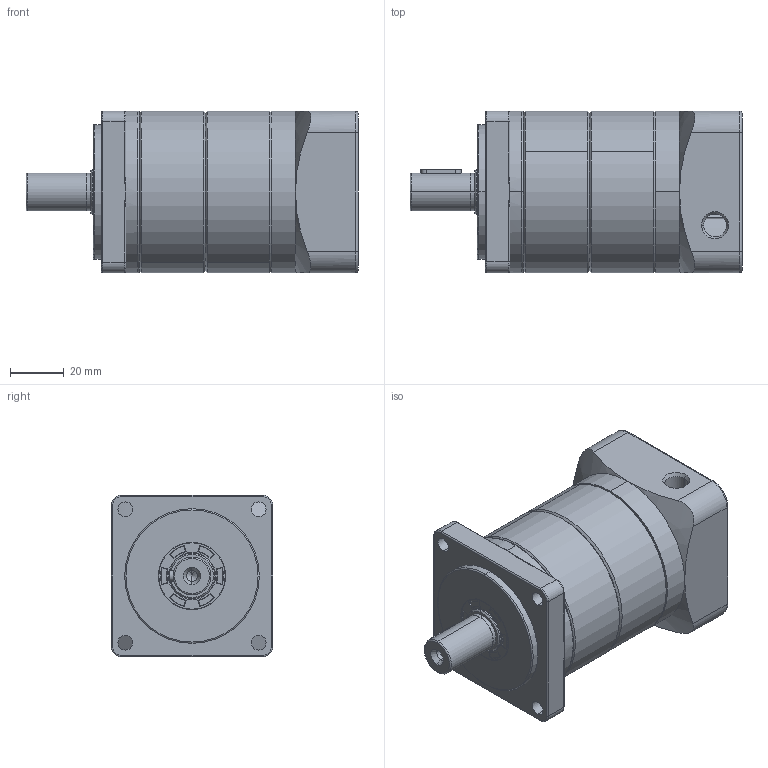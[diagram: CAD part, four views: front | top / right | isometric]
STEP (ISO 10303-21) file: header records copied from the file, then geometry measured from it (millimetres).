
FILE_DESCRIPTION (( 'STEP AP203' ), '1' );
FILE_NAME ('S60倰_L2(祭筳SP)_俋罠.STEP', '2016-05-18T03:48:22', ( '' ), ( '' ), 'SwSTEP 2.0', 'SolidWorks 2015', '' );
FILE_SCHEMA (( 'CONFIG_CONTROL_DESIGN' ));
Length unit declared in the file: millimetre
Products named in the file (9): S-60倰_源倛奻屳; 蚐猾_TC 17-25-4; S-60型_入力軸_SP; S-60倰_源倰菁釱-祭筳SP; S60倰_L2(祭筳SP)_俋罠; S-60倰_堤薯嵞; 嵞創6003_17-35-10; 雙頭圓鍵_4-4-15; S-60型_內齒環
Assembly tree (10 placements, depth 2):
  S60倰_L2(祭筳SP)_俋罠
    S-60倰_源倰菁釱-祭筳SP
    S-60倰_堤薯嵞
    S-60倰_源倛奻屳
    嵞創6003_17-35-10  x2
    蚐猾_TC 17-25-4
    S-60型_內齒環  x2
    S-60型_入力軸_SP
    雙頭圓鍵_4-4-15
Bounding box: 123.2 x 60 x 60 mm (x, y, z)
Volume: 197355 mm3; surface area: 78969.4 mm2
Topology: 12 solids, 12 shells, 507 faces, 1147 edges, 690 vertices
Faces by surface type: cylinder 227, plane 108, cone 94, torus 66, bspline 8, sphere 4
Entity records: 14121 total; most frequent: CARTESIAN_POINT 2894, DIRECTION 2364, ORIENTED_EDGE 1966, AXIS2_PLACEMENT_3D 996, EDGE_CURVE 983, VERTEX_POINT 606, CIRCLE 548, EDGE_LOOP 535
